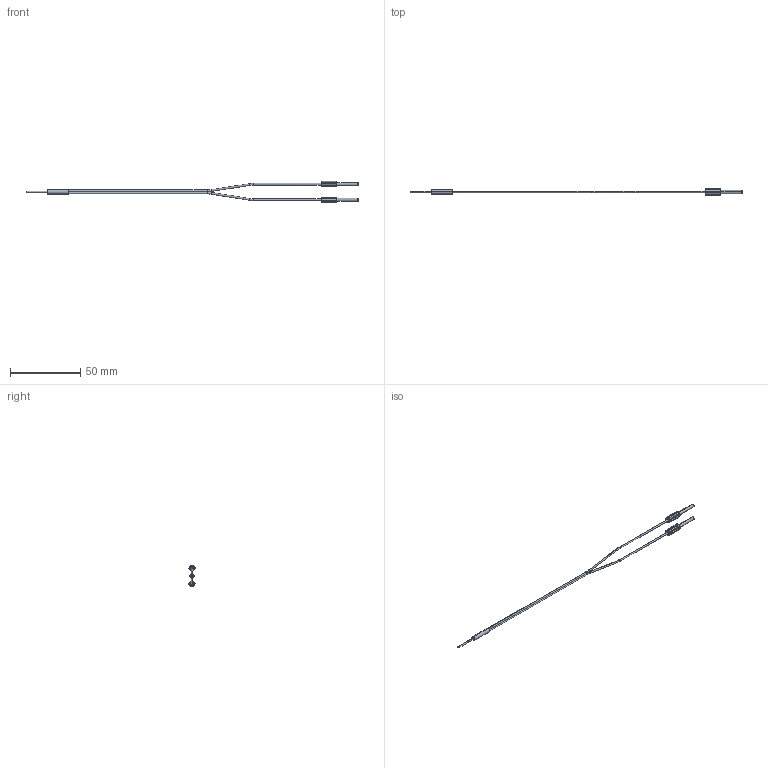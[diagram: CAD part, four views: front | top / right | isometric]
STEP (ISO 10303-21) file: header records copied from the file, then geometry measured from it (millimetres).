
FILE_DESCRIPTION (( 'STEP AP214' ), '1' );
FILE_NAME ('FDCSN-320-05.STEP', '2019-06-18T02:32:14', ( '' ), ( '' ), 'SwSTEP 2.0', 'SolidWorks 2018', '' );
FILE_SCHEMA (( 'AUTOMOTIVE_DESIGN' ));
Length unit declared in the file: millimetre
Products named in the file (1): FDCSN-320-05
Bounding box: 235.5 x 4.35 x 14.9 mm (x, y, z)
Volume: 949.9 mm3; surface area: 2175.6 mm2
Topology: 1 solids, 1 shells, 187 faces, 436 edges, 262 vertices
Faces by surface type: cylinder 81, torus 72, plane 26, cone 8
Entity records: 5686 total; most frequent: DIRECTION 1142, CARTESIAN_POINT 886, ORIENTED_EDGE 872, AXIS2_PLACEMENT_3D 518, EDGE_CURVE 436, CIRCLE 330, VERTEX_POINT 262, EDGE_LOOP 198
